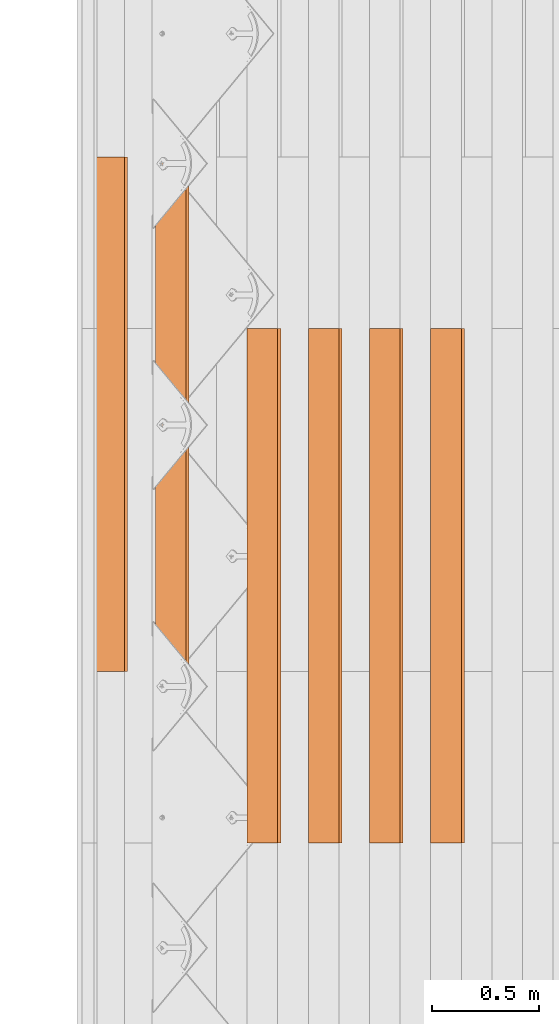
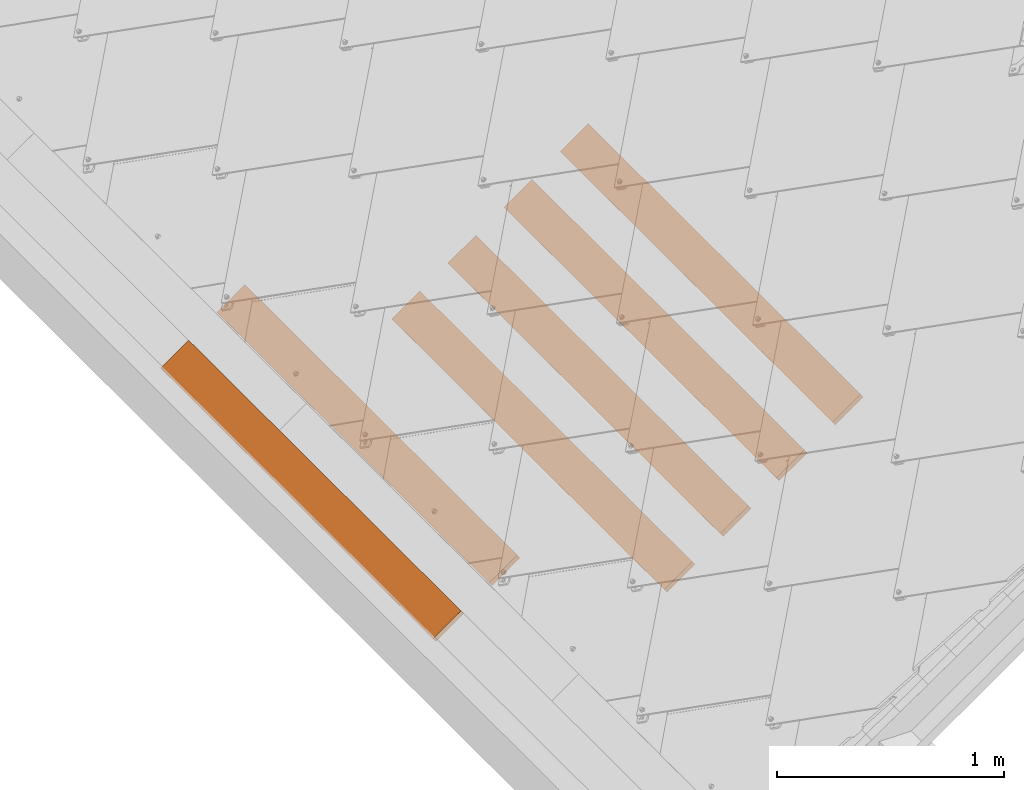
# One storey, part 46 of 133: 6 proxies, 1 element without a shape of its own.
"""IFC2X3 building model written with IfcOpenShell, lengths in millimetres."""

from ifc_helpers import new_model, entity, si_unit, converted_unit, derived_unit, direction, frame, frame_2d, origin, place, context, subcontext, project, spatial, rectangle, extrude, source, transform, mapped, material, type_object, type_shapes, element, aggregate, save


model = new_model("IFC2X3")

# Units and contexts
model_context = context("Model", 3, precision=0.01, world=origin(), true_north=direction((6.12303176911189e-17, 1.0)))
body_context = subcontext(model_context, "Body", "Model", "MODEL_VIEW")
ifc_project = project(units=[si_unit("LENGTHUNIT", "METRE", prefix="MILLI"), si_unit("AREAUNIT", "SQUARE_METRE"), si_unit("VOLUMEUNIT", "CUBIC_METRE"), converted_unit("PLANEANGLEUNIT", "DEGREE", entity("IfcRatioMeasure", 0.0174532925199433), si_unit("PLANEANGLEUNIT", "RADIAN"), dimensions=[0, 0, 0, 0, 0, 0, 0]), si_unit("MASSUNIT", "GRAM", prefix="KILO"), derived_unit("MASSDENSITYUNIT", [(si_unit("MASSUNIT", "GRAM", prefix="KILO"), 1), (si_unit("LENGTHUNIT", "METRE"), -3)]), si_unit("TIMEUNIT", "SECOND"), si_unit("FREQUENCYUNIT", "HERTZ"), si_unit("THERMODYNAMICTEMPERATUREUNIT", "DEGREE_CELSIUS"), derived_unit("THERMALTRANSMITTANCEUNIT", [(si_unit("MASSUNIT", "GRAM", prefix="KILO"), 1), (si_unit("THERMODYNAMICTEMPERATUREUNIT", "KELVIN"), -1), (si_unit("TIMEUNIT", "SECOND"), -3)]), derived_unit("VOLUMETRICFLOWRATEUNIT", [(si_unit("LENGTHUNIT", "METRE"), 3), (si_unit("TIMEUNIT", "SECOND"), -1)]), si_unit("ELECTRICCURRENTUNIT", "AMPERE"), si_unit("ELECTRICVOLTAGEUNIT", "VOLT"), si_unit("POWERUNIT", "WATT"), si_unit("FORCEUNIT", "NEWTON", prefix="KILO"), si_unit("ILLUMINANCEUNIT", "LUX"), si_unit("LUMINOUSFLUXUNIT", "LUMEN"), si_unit("LUMINOUSINTENSITYUNIT", "CANDELA"), derived_unit("USERDEFINED", [(si_unit("MASSUNIT", "GRAM", prefix="KILO"), -1), (si_unit("LENGTHUNIT", "METRE"), -2), (si_unit("TIMEUNIT", "SECOND"), 3), (si_unit("LUMINOUSFLUXUNIT", "LUMEN"), 1)]), derived_unit("LINEARVELOCITYUNIT", [(si_unit("LENGTHUNIT", "METRE"), 1), (si_unit("TIMEUNIT", "SECOND"), -1)]), si_unit("PRESSUREUNIT", "PASCAL"), derived_unit("USERDEFINED", [(si_unit("LENGTHUNIT", "METRE"), -2), (si_unit("MASSUNIT", "GRAM", prefix="KILO"), 1), (si_unit("TIMEUNIT", "SECOND"), -2)])], contexts=[model_context])

# Site, building, storey
site_placement = place(None, origin())
site = spatial("IfcSite", under=ifc_project, at=site_placement, Name="Default", CompositionType="ELEMENT")
building_placement = place(site_placement, origin())
building = spatial("IfcBuilding", under=site, at=building_placement, CompositionType="ELEMENT")
storey_placement = place(building_placement, origin())
storey = spatial("IfcBuildingStorey", under=building, at=storey_placement, Name="Level 1", CompositionType="ELEMENT", Elevation=0.0)

# Assembly, proxies
assembly_placement = place(storey_placement, origin())
assembly = element("IfcElementAssembly", 1, at=assembly_placement, inside=storey, Name="Structural Framing Assembly:Roof Construction Assembly", ObjectType="Structural Framing Assembly:Roof Construction Assembly", AssemblyPlace="NOTDEFINED", PredefinedType="USERDEFINED")
ifc_material = material(Name="Wood - Generic - Wood For Showcase")
building_element_proxy_type_1 = type_object("IfcBuildingElementProxyType", Name="Structural Framing 15", PredefinedType="NOTDEFINED", material=ifc_material)
shared_shape_1 = source(origin(), body_context, "Body", "SweptSolid", [
    extrude(rectangle(XDim=24.9999999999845, YDim=174.344679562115, at=frame_2d((-1.77635683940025e-13, -4.54747350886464e-13), x_axis=(0.0, 1.0))), frame((1128.20180147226, 1595.55080214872, 2760.23940055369), z_axis=(0.0, 1.0, 0.0), x_axis=(-0.819152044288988, 0.0, -0.573576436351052)), (0.0, 0.0, 1.0), 2400.0),
])
type_shapes(building_element_proxy_type_1, [shared_shape_1])
proxy_1_placement = place(assembly_placement, frame((-2142.22201011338, -3340.0, -1500.0)))
proxy_1 = element("IfcBuildingElementProxy", 2, at=proxy_1_placement, type_object=building_element_proxy_type_1, material=ifc_material, Name="Structural Framing 91:Structural Framing 15", ObjectType="Structural Framing 91:Structural Framing 15", context=body_context, shape_type="MappedRepresentation", body=[
    mapped(shared_shape_1, transform((0.0, 0.0, 0.0), scale=1.0)),
])
building_element_proxy_type_2 = type_object("IfcBuildingElementProxyType", Name="Structural Framing 15", PredefinedType="NOTDEFINED", material=ifc_material)
shared_shape_2 = source(origin(), body_context, "Body", "SweptSolid", [
    extrude(rectangle(XDim=24.9999999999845, YDim=174.344679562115, at=frame_2d((-1.77635683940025e-13, -4.54747350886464e-13), x_axis=(0.0, 1.0))), frame((1128.20180147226, 1595.55080214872, 2760.23940055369), z_axis=(0.0, 1.0, 0.0), x_axis=(-0.819152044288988, 0.0, -0.573576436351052)), (0.0, 0.0, 1.0), 2400.0),
])
type_shapes(building_element_proxy_type_2, [shared_shape_2])
proxy_2_placement = place(assembly_placement, frame((-2427.85161146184, -3340.0, -1700.0)))
proxy_2 = element("IfcBuildingElementProxy", 3, at=proxy_2_placement, type_object=building_element_proxy_type_2, material=ifc_material, Name="Structural Framing 101:Structural Framing 15", ObjectType="Structural Framing 101:Structural Framing 15", context=body_context, shape_type="MappedRepresentation", body=[
    mapped(shared_shape_2, transform((0.0, 0.0, 0.0), scale=1.0)),
])
building_element_proxy_type_3 = type_object("IfcBuildingElementProxyType", Name="Structural Framing 15", PredefinedType="NOTDEFINED", material=ifc_material)
shared_shape_3 = source(origin(), body_context, "Body", "SweptSolid", [
    extrude(rectangle(XDim=24.9999999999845, YDim=174.344679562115, at=frame_2d((-1.77635683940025e-13, -4.54747350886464e-13), x_axis=(0.0, 1.0))), frame((1128.20180147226, 1595.55080214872, 2760.23940055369), z_axis=(0.0, 1.0, 0.0), x_axis=(-0.819152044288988, 0.0, -0.573576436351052)), (0.0, 0.0, 1.0), 2400.0),
])
type_shapes(building_element_proxy_type_3, [shared_shape_3])
proxy_3_placement = place(assembly_placement, frame((-2713.48121281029, -3340.0, -1900.0)))
proxy_3 = element("IfcBuildingElementProxy", 4, at=proxy_3_placement, type_object=building_element_proxy_type_3, material=ifc_material, Name="Structural Framing 111:Structural Framing 15", ObjectType="Structural Framing 111:Structural Framing 15", context=body_context, shape_type="MappedRepresentation", body=[
    mapped(shared_shape_3, transform((0.0, 0.0, 0.0), scale=1.0)),
])
building_element_proxy_type_4 = type_object("IfcBuildingElementProxyType", Name="Structural Framing 15", PredefinedType="NOTDEFINED", material=ifc_material)
shared_shape_4 = source(origin(), body_context, "Body", "SweptSolid", [
    extrude(rectangle(XDim=24.9999999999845, YDim=174.344679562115, at=frame_2d((-1.77635683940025e-13, -4.54747350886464e-13), x_axis=(0.0, 1.0))), frame((1128.20180147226, 1595.55080214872, 2760.23940055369), z_axis=(0.0, 1.0, 0.0), x_axis=(-0.819152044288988, 0.0, -0.573576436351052)), (0.0, 0.0, 1.0), 2400.0),
])
type_shapes(building_element_proxy_type_4, [shared_shape_4])
proxy_4_placement = place(assembly_placement, frame((-2999.11081415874, -3340.0, -2100.0)))
proxy_4 = element("IfcBuildingElementProxy", 5, at=proxy_4_placement, type_object=building_element_proxy_type_4, material=ifc_material, Name="Structural Framing 121:Structural Framing 15", ObjectType="Structural Framing 121:Structural Framing 15", context=body_context, shape_type="MappedRepresentation", body=[
    mapped(shared_shape_4, transform((0.0, 0.0, 0.0), scale=1.0)),
])
building_element_proxy_type_5 = type_object("IfcBuildingElementProxyType", Name="Structural Framing 15", PredefinedType="NOTDEFINED", material=ifc_material)
shared_shape_5 = source(origin(), body_context, "Body", "SweptSolid", [
    extrude(rectangle(XDim=24.9999999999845, YDim=174.344679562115, at=frame_2d((-1.77635683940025e-13, -4.54747350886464e-13), x_axis=(0.0, 1.0))), frame((1128.20180147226, 1525.55080214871, 2760.23940055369), z_axis=(0.0, 1.0, 0.0), x_axis=(-0.819152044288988, 0.0, -0.573576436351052)), (0.0, 0.0, 1.0), 2400.0),
])
type_shapes(building_element_proxy_type_5, [shared_shape_5])
proxy_5_placement = place(assembly_placement, frame((-3427.55521618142, -2470.0, -2400.0)))
proxy_5 = element("IfcBuildingElementProxy", 6, at=proxy_5_placement, type_object=building_element_proxy_type_5, material=ifc_material, Name="Structural Framing 136:Structural Framing 15", ObjectType="Structural Framing 136:Structural Framing 15", context=body_context, shape_type="MappedRepresentation", body=[
    mapped(shared_shape_5, transform((0.0, 0.0, 0.0), scale=1.0)),
])
building_element_proxy_type_6 = type_object("IfcBuildingElementProxyType", Name="Structural Framing 15", PredefinedType="NOTDEFINED", material=ifc_material)
shared_shape_6 = source(origin(), body_context, "Body", "SweptSolid", [
    extrude(rectangle(XDim=24.9999999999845, YDim=174.344679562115, at=frame_2d((-1.77635683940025e-13, -4.54747350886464e-13), x_axis=(0.0, 1.0))), frame((1128.20180147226, 1525.55080214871, 2760.23940055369), z_axis=(0.0, 1.0, 0.0), x_axis=(-0.819152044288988, 0.0, -0.573576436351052)), (0.0, 0.0, 1.0), 2400.0),
])
type_shapes(building_element_proxy_type_6, [shared_shape_6])
proxy_6_placement = place(assembly_placement, frame((-3713.18481752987, -2470.0, -2600.0)))
proxy_6 = element("IfcBuildingElementProxy", 7, at=proxy_6_placement, type_object=building_element_proxy_type_6, material=ifc_material, Name="Structural Framing 146:Structural Framing 15", ObjectType="Structural Framing 146:Structural Framing 15", context=body_context, shape_type="MappedRepresentation", body=[
    mapped(shared_shape_6, transform((0.0, 0.0, 0.0), scale=1.0)),
])
aggregate(assembly, [proxy_1, proxy_2, proxy_3, proxy_4, proxy_5, proxy_6])

save(model, "model.ifc")
